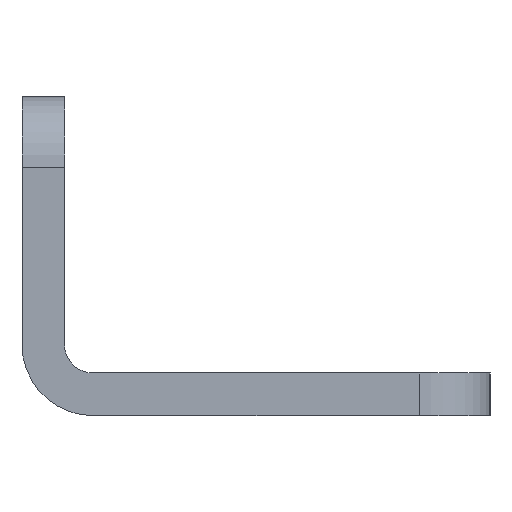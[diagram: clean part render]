
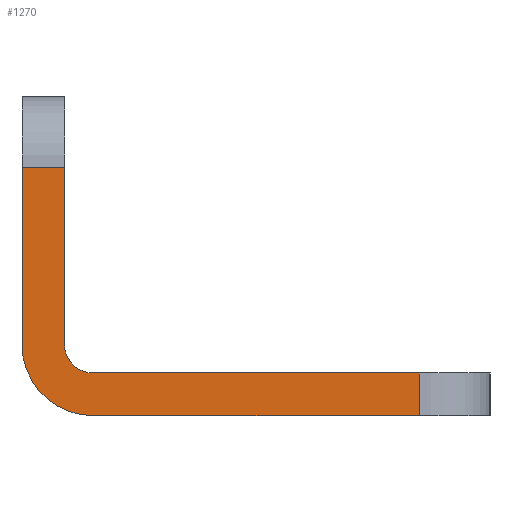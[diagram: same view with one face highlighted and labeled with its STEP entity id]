
A CAD part, left-side view. The second image highlights one B-rep face of the part: STEP entity #1270.
In plain terms, the highlighted planar face has unit normal (-1, 0, 0).
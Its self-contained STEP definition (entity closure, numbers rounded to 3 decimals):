
#197=CARTESIAN_POINT('',(508.575,-656.904,-18.5));
#198=DIRECTION('',(1.,0.,0.));
#199=DIRECTION('',(0.,0.,-1.));
#200=AXIS2_PLACEMENT_3D('',#197,#198,#199);
#468=DIRECTION('',(0.,1.,0.));
#469=VECTOR('',#468,3.);
#470=CARTESIAN_POINT('',(508.575,-654.904,-6.));
#471=LINE('',#470,#469);
#472=DIRECTION('',(0.,0.,1.));
#473=VECTOR('',#472,12.5);
#474=CARTESIAN_POINT('',(508.575,-654.904,-18.5));
#475=LINE('',#474,#473);
#476=DIRECTION('',(0.,1.,0.));
#477=VECTOR('',#476,23.);
#478=CARTESIAN_POINT('',(508.575,-679.904,-20.5));
#479=LINE('',#478,#477);
#480=DIRECTION('',(0.,0.,1.));
#481=VECTOR('',#480,3.);
#482=CARTESIAN_POINT('',(508.575,-679.904,-23.5));
#483=LINE('',#482,#481);
#484=DIRECTION('',(0.,-1.,0.));
#485=VECTOR('',#484,23.);
#486=CARTESIAN_POINT('',(508.575,-656.904,-23.5));
#487=LINE('',#486,#485);
#488=CARTESIAN_POINT('',(508.575,-656.904,-18.5));
#489=DIRECTION('',(-1.,0.,0.));
#490=DIRECTION('',(0.,1.,0.));
#491=AXIS2_PLACEMENT_3D('',#488,#489,#490);
#493=DIRECTION('',(0.,0.,-1.));
#494=VECTOR('',#493,12.5);
#495=CARTESIAN_POINT('',(508.575,-651.904,-6.));
#496=LINE('',#495,#494);
#670=CARTESIAN_POINT('',(508.575,-654.904,-18.5));
#672=VERTEX_POINT('',#670);
#674=CARTESIAN_POINT('',(508.575,-656.904,-20.5));
#676=VERTEX_POINT('',#674);
#681=CARTESIAN_POINT('',(508.575,-651.904,-18.5));
#682=VERTEX_POINT('',#681);
#683=CARTESIAN_POINT('',(508.575,-656.904,-23.5));
#684=VERTEX_POINT('',#683);
#693=CARTESIAN_POINT('',(508.575,-679.904,-20.5));
#695=VERTEX_POINT('',#693);
#699=CARTESIAN_POINT('',(508.575,-679.904,-23.5));
#700=VERTEX_POINT('',#699);
#709=CARTESIAN_POINT('',(508.575,-651.904,-6.));
#711=VERTEX_POINT('',#709);
#715=CARTESIAN_POINT('',(508.575,-654.904,-6.));
#716=VERTEX_POINT('',#715);
#1254=CARTESIAN_POINT('',(508.575,-669.904,0.));
#1255=DIRECTION('',(-1.,0.,0.));
#1256=DIRECTION('',(0.,0.,1.));
#1257=AXIS2_PLACEMENT_3D('',#1254,#1255,#1256);
#1258=PLANE('',#1257);
#1259=ORIENTED_EDGE('',*,*,#1249,.F.);
#1260=ORIENTED_EDGE('',*,*,#893,.F.);
#1261=ORIENTED_EDGE('',*,*,#991,.F.);
#1262=ORIENTED_EDGE('',*,*,#1011,.F.);
#1264=ORIENTED_EDGE('',*,*,#1263,.F.);
#1265=ORIENTED_EDGE('',*,*,#1052,.F.);
#1266=ORIENTED_EDGE('',*,*,#1125,.F.);
#1267=ORIENTED_EDGE('',*,*,#1141,.F.);
#1268=EDGE_LOOP('',(#1259,#1260,#1261,#1262,#1264,#1265,#1266,#1267));
#1269=FACE_OUTER_BOUND('',#1268,.F.);
#1270=ADVANCED_FACE('',(#1269),#1258,.T.);
#201=CIRCLE('',#200,2.);
#492=CIRCLE('',#491,5.);
#893=EDGE_CURVE('',#672,#716,#475,.T.);
#991=EDGE_CURVE('',#676,#672,#201,.T.);
#1011=EDGE_CURVE('',#695,#676,#479,.T.);
#1052=EDGE_CURVE('',#684,#700,#487,.T.);
#1125=EDGE_CURVE('',#682,#684,#492,.T.);
#1141=EDGE_CURVE('',#711,#682,#496,.T.);
#1249=EDGE_CURVE('',#716,#711,#471,.T.);
#1263=EDGE_CURVE('',#700,#695,#483,.T.);
